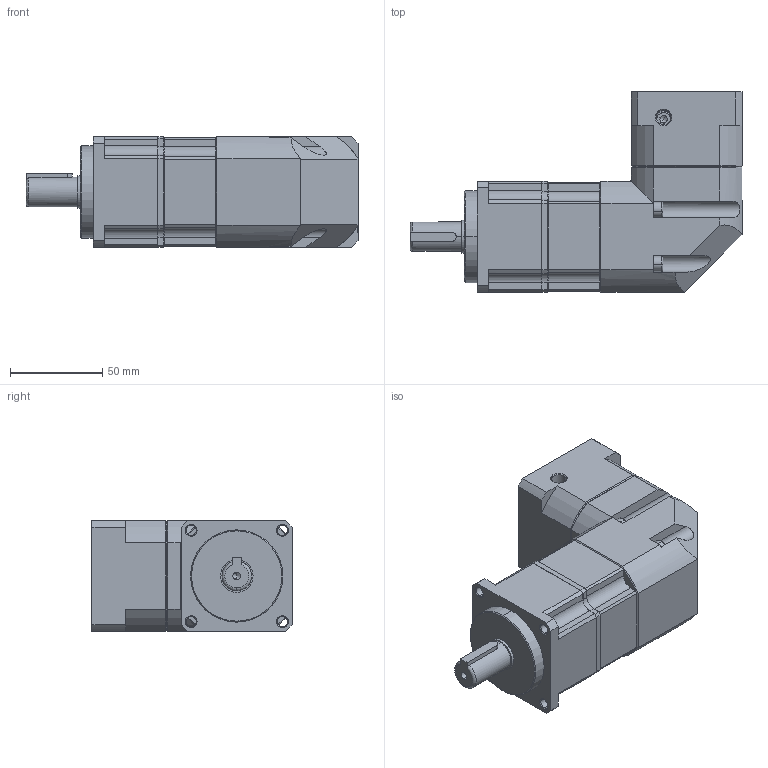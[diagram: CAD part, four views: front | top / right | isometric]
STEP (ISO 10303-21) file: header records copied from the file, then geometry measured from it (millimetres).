
FILE_DESCRIPTION (( 'STEP AP203' ), '1' );
FILE_NAME ('ABR-060-L2-14-50-70-M5.STEP', '2025-08-16T01:30:52', ( '' ), ( '' ), 'SwSTEP 2.0', 'SolidWorks 2016', '' );
FILE_SCHEMA (( 'CONFIG_CONTROL_DESIGN' ));
Length unit declared in the file: millimetre
Products named in the file (1): ABR-060-L2-14-50-70-M5
Bounding box: 180 x 108.5 x 60 mm (x, y, z)
Volume: 536921.8 mm3; surface area: 101607 mm2
Topology: 14 solids, 16 shells, 700 faces, 1648 edges, 995 vertices
Faces by surface type: plane 333, cylinder 225, cone 112, bspline 30
Entity records: 20613 total; most frequent: CARTESIAN_POINT 4560, DIRECTION 3443, ORIENTED_EDGE 3220, EDGE_CURVE 1610, AXIS2_PLACEMENT_3D 1286, VERTEX_POINT 995, LINE 871, VECTOR 871
